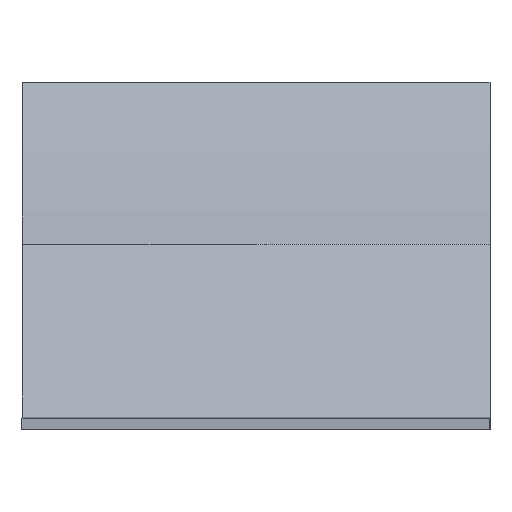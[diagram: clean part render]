
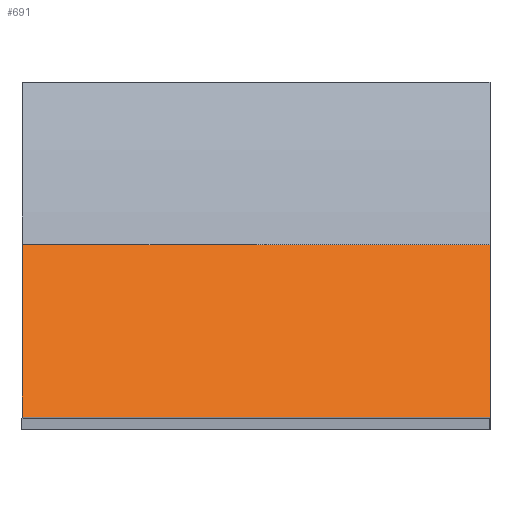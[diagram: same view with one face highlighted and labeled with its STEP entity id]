
A CAD part, left-side view. The second image highlights one B-rep face of the part: STEP entity #691.
In plain terms, the highlighted planar face has unit normal (-0.776, 0, 0.631).
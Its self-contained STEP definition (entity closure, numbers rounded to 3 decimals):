
#85 = VERTEX_POINT('',#86);
#86 = CARTESIAN_POINT('',(29.4,-22.,-21.69));
#122 = PLANE('',#123);
#123 = AXIS2_PLACEMENT_3D('',#124,#125,#126);
#124 = CARTESIAN_POINT('',(31.156,-22.,-20.598));
#125 = DIRECTION('',(-0.,-1.,-0.));
#126 = DIRECTION('',(0.,0.,-1.));
#380 = VERTEX_POINT('',#381);
#381 = CARTESIAN_POINT('',(30.6,-22.,-20.215));
#395 = PLANE('',#396);
#396 = AXIS2_PLACEMENT_3D('',#397,#398,#399);
#397 = CARTESIAN_POINT('',(32.4,-22.,-20.215));
#398 = DIRECTION('',(0.,-0.,1.));
#399 = DIRECTION('',(-1.,0.,0.));
#407 = EDGE_CURVE('',#380,#85,#408,.T.);
#408 = SURFACE_CURVE('',#409,(#413,#420),.PCURVE_S1.);
#409 = LINE('',#410,#411);
#410 = CARTESIAN_POINT('',(30.6,-22.,-20.215));
#411 = VECTOR('',#412,1.);
#412 = DIRECTION('',(-0.631,0.,-0.776));
#413 = PCURVE('',#122,#414);
#414 = DEFINITIONAL_REPRESENTATION('',(#415),#419);
#415 = LINE('',#416,#417);
#416 = CARTESIAN_POINT('',(-0.383,-0.556));
#417 = VECTOR('',#418,1.);
#418 = DIRECTION('',(0.776,-0.631));
#419 = ( GEOMETRIC_REPRESENTATION_CONTEXT(2) 
PARAMETRIC_REPRESENTATION_CONTEXT() REPRESENTATION_CONTEXT('2D SPACE',''
  ) );
#420 = PCURVE('',#421,#426);
#421 = PLANE('',#422);
#422 = AXIS2_PLACEMENT_3D('',#423,#424,#425);
#423 = CARTESIAN_POINT('',(30.6,-22.,-20.215));
#424 = DIRECTION('',(-0.776,0.,0.631));
#425 = DIRECTION('',(-0.631,0.,-0.776));
#426 = DEFINITIONAL_REPRESENTATION('',(#427),#431);
#427 = LINE('',#428,#429);
#428 = CARTESIAN_POINT('',(0.,0.));
#429 = VECTOR('',#430,1.);
#430 = DIRECTION('',(1.,0.));
#431 = ( GEOMETRIC_REPRESENTATION_CONTEXT(2) 
PARAMETRIC_REPRESENTATION_CONTEXT() REPRESENTATION_CONTEXT('2D SPACE',''
  ) );
#509 = CYLINDRICAL_SURFACE('',#510,7.7);
#510 = AXIS2_PLACEMENT_3D('',#511,#512,#513);
#511 = CARTESIAN_POINT('',(29.,-22.1,-14.));
#512 = DIRECTION('',(0.,1.,0.));
#513 = DIRECTION('',(0.,-0.,1.));
#691 = ADVANCED_FACE('',(#692),#421,.T.);
#692 = FACE_BOUND('',#693,.T.);
#693 = EDGE_LOOP('',(#694,#695,#718,#746));
#694 = ORIENTED_EDGE('',*,*,#407,.F.);
#695 = ORIENTED_EDGE('',*,*,#696,.T.);
#696 = EDGE_CURVE('',#380,#697,#699,.T.);
#697 = VERTEX_POINT('',#698);
#698 = CARTESIAN_POINT('',(30.6,-18.,-20.215));
#699 = SURFACE_CURVE('',#700,(#704,#711),.PCURVE_S1.);
#700 = LINE('',#701,#702);
#701 = CARTESIAN_POINT('',(30.6,-22.,-20.215));
#702 = VECTOR('',#703,1.);
#703 = DIRECTION('',(0.,1.,0.));
#704 = PCURVE('',#421,#705);
#705 = DEFINITIONAL_REPRESENTATION('',(#706),#710);
#706 = LINE('',#707,#708);
#707 = CARTESIAN_POINT('',(0.,0.));
#708 = VECTOR('',#709,1.);
#709 = DIRECTION('',(0.,-1.));
#710 = ( GEOMETRIC_REPRESENTATION_CONTEXT(2) 
PARAMETRIC_REPRESENTATION_CONTEXT() REPRESENTATION_CONTEXT('2D SPACE',''
  ) );
#711 = PCURVE('',#395,#712);
#712 = DEFINITIONAL_REPRESENTATION('',(#713),#717);
#713 = LINE('',#714,#715);
#714 = CARTESIAN_POINT('',(1.8,0.));
#715 = VECTOR('',#716,1.);
#716 = DIRECTION('',(0.,-1.));
#717 = ( GEOMETRIC_REPRESENTATION_CONTEXT(2) 
PARAMETRIC_REPRESENTATION_CONTEXT() REPRESENTATION_CONTEXT('2D SPACE',''
  ) );
#718 = ORIENTED_EDGE('',*,*,#719,.T.);
#719 = EDGE_CURVE('',#697,#720,#722,.T.);
#720 = VERTEX_POINT('',#721);
#721 = CARTESIAN_POINT('',(29.4,-18.,-21.69));
#722 = SURFACE_CURVE('',#723,(#727,#734),.PCURVE_S1.);
#723 = LINE('',#724,#725);
#724 = CARTESIAN_POINT('',(30.6,-18.,-20.215));
#725 = VECTOR('',#726,1.);
#726 = DIRECTION('',(-0.631,0.,-0.776));
#727 = PCURVE('',#421,#728);
#728 = DEFINITIONAL_REPRESENTATION('',(#729),#733);
#729 = LINE('',#730,#731);
#730 = CARTESIAN_POINT('',(0.,-4.));
#731 = VECTOR('',#732,1.);
#732 = DIRECTION('',(1.,0.));
#733 = ( GEOMETRIC_REPRESENTATION_CONTEXT(2) 
PARAMETRIC_REPRESENTATION_CONTEXT() REPRESENTATION_CONTEXT('2D SPACE',''
  ) );
#734 = PCURVE('',#735,#740);
#735 = PLANE('',#736);
#736 = AXIS2_PLACEMENT_3D('',#737,#738,#739);
#737 = CARTESIAN_POINT('',(31.156,-18.,-20.598));
#738 = DIRECTION('',(-0.,-1.,-0.));
#739 = DIRECTION('',(0.,0.,-1.));
#740 = DEFINITIONAL_REPRESENTATION('',(#741),#745);
#741 = LINE('',#742,#743);
#742 = CARTESIAN_POINT('',(-0.383,-0.556));
#743 = VECTOR('',#744,1.);
#744 = DIRECTION('',(0.776,-0.631));
#745 = ( GEOMETRIC_REPRESENTATION_CONTEXT(2) 
PARAMETRIC_REPRESENTATION_CONTEXT() REPRESENTATION_CONTEXT('2D SPACE',''
  ) );
#746 = ORIENTED_EDGE('',*,*,#747,.F.);
#747 = EDGE_CURVE('',#85,#720,#748,.T.);
#748 = SURFACE_CURVE('',#749,(#753,#759),.PCURVE_S1.);
#749 = LINE('',#750,#751);
#750 = CARTESIAN_POINT('',(29.4,-22.1,-21.69));
#751 = VECTOR('',#752,1.);
#752 = DIRECTION('',(0.,1.,0.));
#753 = PCURVE('',#421,#754);
#754 = DEFINITIONAL_REPRESENTATION('',(#755),#758);
#755 = B_SPLINE_CURVE_WITH_KNOTS('',1,(#756,#757),.UNSPECIFIED.,.F.,.F.,
  (2,2),(0.1,4.1),.PIECEWISE_BEZIER_KNOTS.);
#756 = CARTESIAN_POINT('',(1.901,0.));
#757 = CARTESIAN_POINT('',(1.901,-4.));
#758 = ( GEOMETRIC_REPRESENTATION_CONTEXT(2) 
PARAMETRIC_REPRESENTATION_CONTEXT() REPRESENTATION_CONTEXT('2D SPACE',''
  ) );
#759 = PCURVE('',#509,#760);
#760 = DEFINITIONAL_REPRESENTATION('',(#761),#764);
#761 = B_SPLINE_CURVE_WITH_KNOTS('',1,(#762,#763),.UNSPECIFIED.,.F.,.F.,
  (2,2),(0.1,4.1),.PIECEWISE_BEZIER_KNOTS.);
#762 = CARTESIAN_POINT('',(3.09,0.1));
#763 = CARTESIAN_POINT('',(3.09,4.1));
#764 = ( GEOMETRIC_REPRESENTATION_CONTEXT(2) 
PARAMETRIC_REPRESENTATION_CONTEXT() REPRESENTATION_CONTEXT('2D SPACE',''
  ) );
